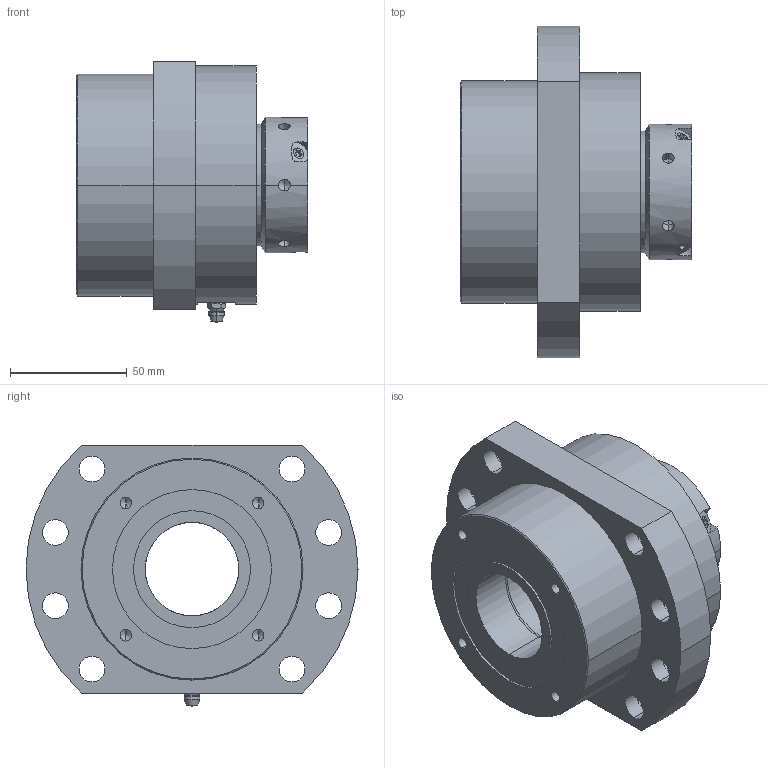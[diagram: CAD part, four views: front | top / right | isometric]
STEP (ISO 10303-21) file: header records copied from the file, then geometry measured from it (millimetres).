
FILE_DESCRIPTION (( 'STEP AP203' ), '1' );
FILE_NAME ('SWBK40G-DF.STEP', '2018-09-15T05:15:13', ( '' ), ( '' ), 'SwSTEP 2.0', 'SolidWorks 2015', '' );
FILE_SCHEMA (( 'CONFIG_CONTROL_DESIGN' ));
Length unit declared in the file: millimetre
Products named in the file (1): SWBK40G-DF
Bounding box: 99 x 142 x 111.9 mm (x, y, z)
Volume: 555017.2 mm3; surface area: 147308.5 mm2
Topology: 35 solids, 47 shells, 717 faces, 1728 edges, 981 vertices
Faces by surface type: cylinder 239, plane 205, bspline 119, cone 118, torus 36
Entity records: 23604 total; most frequent: CARTESIAN_POINT 8124, DIRECTION 3309, ORIENTED_EDGE 3068, EDGE_CURVE 1534, AXIS2_PLACEMENT_3D 1370, VERTEX_POINT 981, EDGE_LOOP 829, CIRCLE 771
